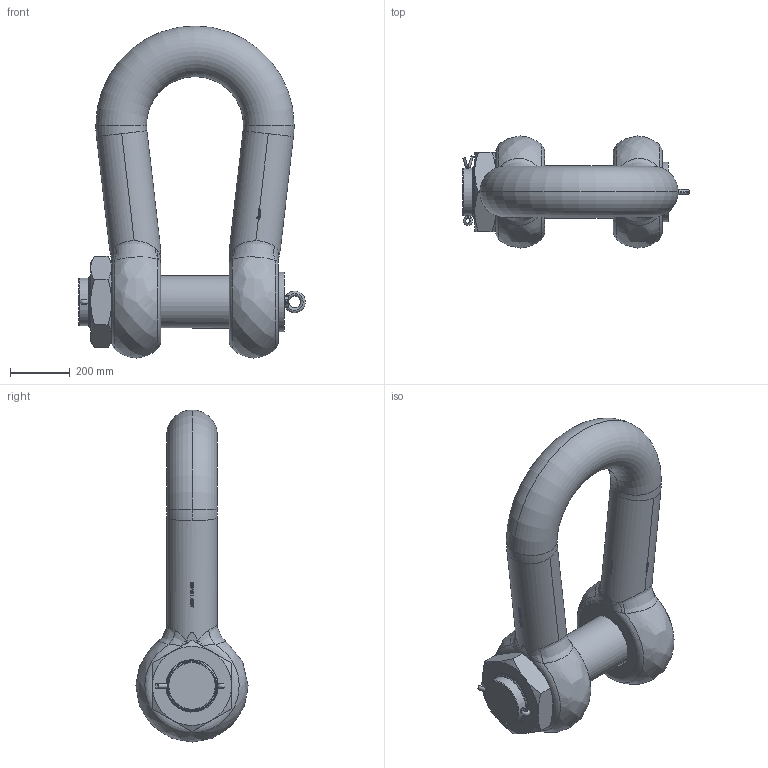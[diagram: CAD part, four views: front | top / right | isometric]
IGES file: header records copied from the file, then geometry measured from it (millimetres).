
Global section: file name: No Iges File Name specified; native system: Autodesk Inventor 2009; preprocessor: AutoDesk Inventor Iges Exporter R2009; author: Jack; date: 20091212.143914; units: millimetre
Bounding box: 761 x 376 x 1113.49 mm (x, y, z)
Volume: 78921827.2 mm3; surface area: 2306526.8 mm2
Topology: 5 solids, 5 shells, 819 faces, 2185 edges, 1433 vertices
Faces by surface type: plane 406, bspline 225, cylinder 110, revolution 36, torus 22, cone 20
Full cylindrical faces by diameter (mm): 175 x15
